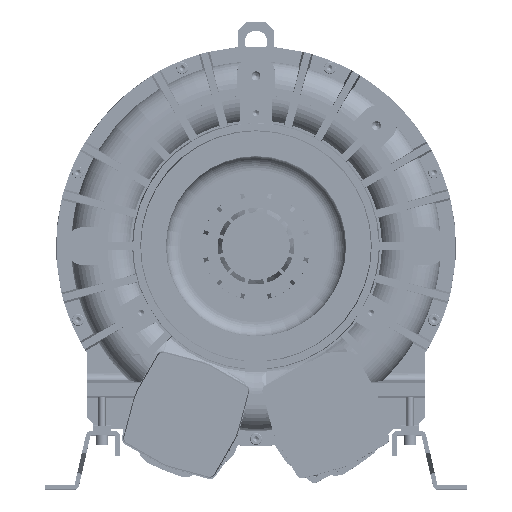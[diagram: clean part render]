
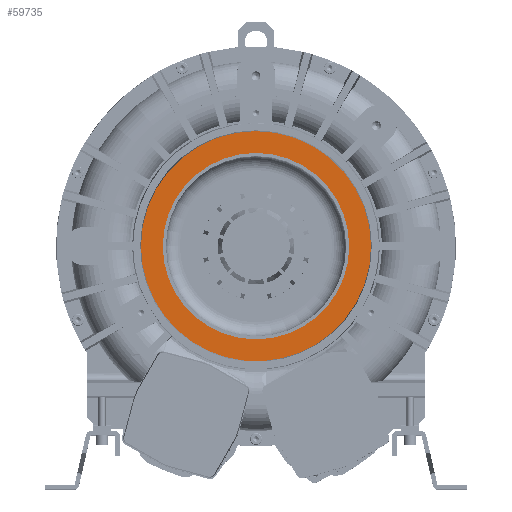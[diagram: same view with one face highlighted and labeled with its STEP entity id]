
A CAD part, top view. The second image highlights one B-rep face of the part: STEP entity #59735.
In plain terms, the highlighted planar face has unit normal (0, 0, 1).
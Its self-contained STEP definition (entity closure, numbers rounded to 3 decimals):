
#8938 = DIRECTION ( 'NONE',  ( 1., 0., 0. ) ) ;
#23946 = FACE_OUTER_BOUND ( 'NONE', #167076, .T. ) ;
#25768 = EDGE_LOOP ( 'NONE', ( #92467 ) ) ;
#28757 = VERTEX_POINT ( 'NONE', #86012 ) ;
#44270 = CARTESIAN_POINT ( 'NONE',  ( 0., 0., 103.3 ) ) ;
#44419 = EDGE_CURVE ( 'NONE', #158886, #158886, #117463, .T. ) ;
#59735 = ADVANCED_FACE ( 'NONE', ( #83586, #23946 ), #180801, .F. ) ;
#69652 = CARTESIAN_POINT ( 'NONE',  ( 0., 0., 103.3 ) ) ;
#83586 = FACE_BOUND ( 'NONE', #25768, .T. ) ;
#86012 = CARTESIAN_POINT ( 'NONE',  ( -127.694, 0., 103.3 ) ) ;
#92467 = ORIENTED_EDGE ( 'NONE', *, *, #44419, .F. ) ;
#98256 = CARTESIAN_POINT ( 'NONE',  ( 0., 0., 103.3 ) ) ;
#103773 = DIRECTION ( 'NONE',  ( -1., 0., 0. ) ) ;
#117463 = CIRCLE ( 'NONE', #156320, 103.5 ) ;
#119613 = AXIS2_PLACEMENT_3D ( 'NONE', #69652, #144009, #103773 ) ;
#123421 = CARTESIAN_POINT ( 'NONE',  ( 103.5, 0., 103.3 ) ) ;
#135052 = AXIS2_PLACEMENT_3D ( 'NONE', #98256, #136059, #192210 ) ;
#136059 = DIRECTION ( 'NONE',  ( 0., 0., -1. ) ) ;
#144009 = DIRECTION ( 'NONE',  ( 0., 0., 1. ) ) ;
#147485 = EDGE_CURVE ( 'NONE', #28757, #28757, #178168, .T. ) ;
#156320 = AXIS2_PLACEMENT_3D ( 'NONE', #44270, #210126, #8938 ) ;
#158886 = VERTEX_POINT ( 'NONE', #123421 ) ;
#167076 = EDGE_LOOP ( 'NONE', ( #171238 ) ) ;
#171238 = ORIENTED_EDGE ( 'NONE', *, *, #147485, .T. ) ;
#178168 = CIRCLE ( 'NONE', #119613, 127.694 ) ;
#180801 = PLANE ( 'NONE',  #135052 ) ;
#192210 = DIRECTION ( 'NONE',  ( -1., 0., 0. ) ) ;
#210126 = DIRECTION ( 'NONE',  ( 0., 0., 1. ) ) ;
